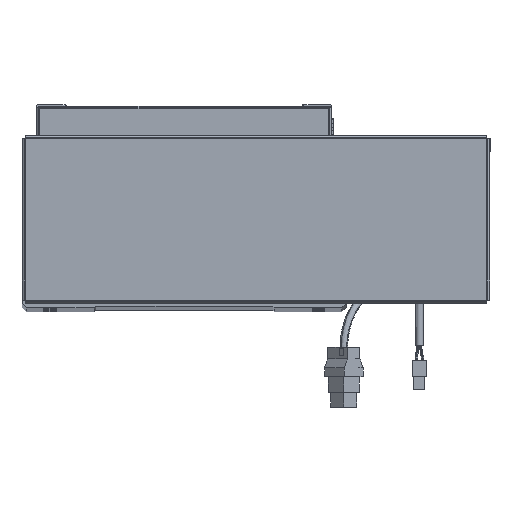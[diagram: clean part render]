
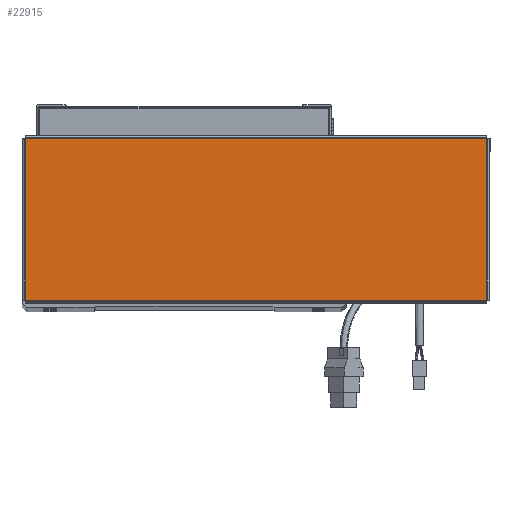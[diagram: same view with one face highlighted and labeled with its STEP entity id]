
A CAD part, top view. The second image highlights one B-rep face of the part: STEP entity #22915.
In plain terms, the highlighted planar face has unit normal (0, 0, 1).
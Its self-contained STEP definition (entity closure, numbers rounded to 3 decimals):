
#3320 = CARTESIAN_POINT ( 'NONE',  ( -156.543, -54.763, 0. ) ) ;
#4810 = EDGE_CURVE ( 'NONE', #37185, #54134, #4846, .T. ) ;
#4846 = LINE ( 'NONE', #31897, #22114 ) ;
#6357 = DIRECTION ( 'NONE',  ( -1., 0., 0. ) ) ;
#6431 = LINE ( 'NONE', #3320, #18776 ) ;
#8519 = FACE_OUTER_BOUND ( 'NONE', #9474, .T. ) ;
#9474 = EDGE_LOOP ( 'NONE', ( #51246, #11961, #24070, #37770 ) ) ;
#10426 = CARTESIAN_POINT ( 'NONE',  ( -156.513, 54.793, 0. ) ) ;
#11961 = ORIENTED_EDGE ( 'NONE', *, *, #4810, .T. ) ;
#15561 = AXIS2_PLACEMENT_3D ( 'NONE', #44865, #65839, #34753 ) ;
#18708 = EDGE_CURVE ( 'NONE', #47529, #37185, #6431, .T. ) ;
#18776 = VECTOR ( 'NONE', #29981, 1000. ) ;
#18939 = VECTOR ( 'NONE', #52623, 1000. ) ;
#19984 = VECTOR ( 'NONE', #6357, 1000. ) ;
#21128 = DIRECTION ( 'NONE',  ( 0., 1., 0. ) ) ;
#22114 = VECTOR ( 'NONE', #21128, 1000. ) ;
#22915 = ADVANCED_FACE ( 'NONE', ( #8519 ), #29032, .T. ) ;
#24070 = ORIENTED_EDGE ( 'NONE', *, *, #65047, .T. ) ;
#25072 = EDGE_CURVE ( 'NONE', #60649, #47529, #46888, .T. ) ;
#29032 = PLANE ( 'NONE',  #15561 ) ;
#29981 = DIRECTION ( 'NONE',  ( 1., 0., 0. ) ) ;
#30271 = CARTESIAN_POINT ( 'NONE',  ( 156.513, 54.763, 0. ) ) ;
#31192 = CARTESIAN_POINT ( 'NONE',  ( -156.513, 54.763, 0. ) ) ;
#31897 = CARTESIAN_POINT ( 'NONE',  ( 156.513, -54.793, 0. ) ) ;
#33939 = LINE ( 'NONE', #53445, #19984 ) ;
#34753 = DIRECTION ( 'NONE',  ( 1., 0., 0. ) ) ;
#37185 = VERTEX_POINT ( 'NONE', #66402 ) ;
#37770 = ORIENTED_EDGE ( 'NONE', *, *, #25072, .T. ) ;
#44865 = CARTESIAN_POINT ( 'NONE',  ( 0., 0., 0. ) ) ;
#46888 = LINE ( 'NONE', #10426, #18939 ) ;
#47529 = VERTEX_POINT ( 'NONE', #62416 ) ;
#51246 = ORIENTED_EDGE ( 'NONE', *, *, #18708, .T. ) ;
#52623 = DIRECTION ( 'NONE',  ( 0., -1., 0. ) ) ;
#53445 = CARTESIAN_POINT ( 'NONE',  ( 156.543, 54.763, 0. ) ) ;
#54134 = VERTEX_POINT ( 'NONE', #30271 ) ;
#60649 = VERTEX_POINT ( 'NONE', #31192 ) ;
#62416 = CARTESIAN_POINT ( 'NONE',  ( -156.513, -54.763, 0. ) ) ;
#65047 = EDGE_CURVE ( 'NONE', #54134, #60649, #33939, .T. ) ;
#65839 = DIRECTION ( 'NONE',  ( 0., 0., 1. ) ) ;
#66402 = CARTESIAN_POINT ( 'NONE',  ( 156.513, -54.763, 0. ) ) ;
